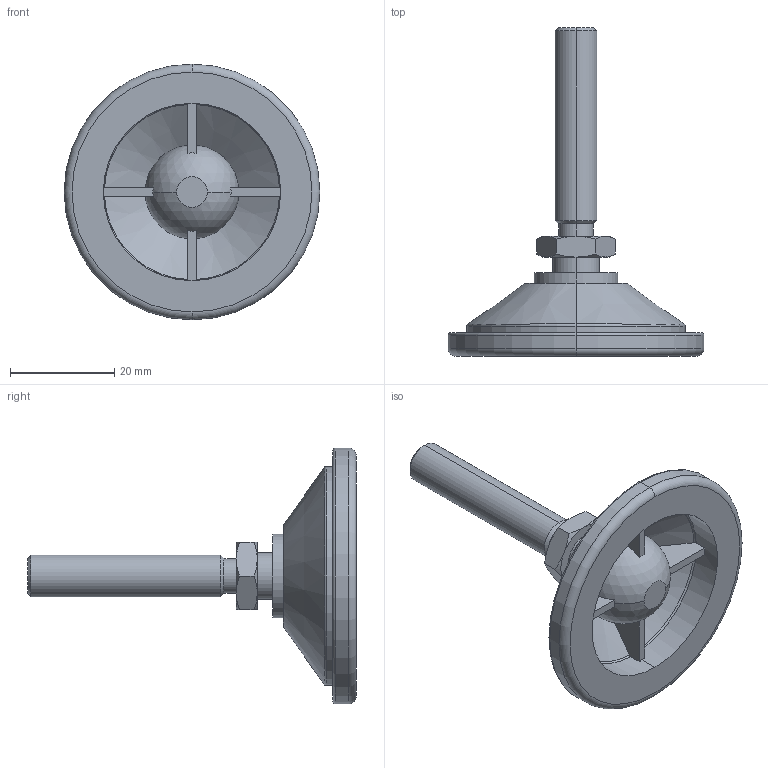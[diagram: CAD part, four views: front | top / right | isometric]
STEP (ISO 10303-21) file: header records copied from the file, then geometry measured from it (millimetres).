
FILE_DESCRIPTION (( 'STEP AP203' ), '1' );
FILE_NAME ('3472.W083.step', '2009-10-21T16:58:05', ( 'Wixroyd' ), ( 'Wixroyd' ), 'SwSTEP 2.0', 'SolidWorks 2009', '' );
FILE_SCHEMA (( 'CONFIG_CONTROL_DESIGN' ));
Length unit declared in the file: millimetre
Products named in the file (3): Part1_3472W083; Part2_3472W083; 3472.W083
Assembly tree (2 placements, depth 2):
  3472.W083
    Part2_3472W083
    Part1_3472W083
Bounding box: 49 x 63 x 49 mm (x, y, z)
Volume: 13458.3 mm3; surface area: 8994.3 mm2
Topology: 2 solids, 2 shells, 95 faces, 231 edges, 145 vertices
Faces by surface type: plane 39, cone 22, cylinder 16, torus 12, sphere 6
Entity records: 3189 total; most frequent: CARTESIAN_POINT 664, DIRECTION 514, ORIENTED_EDGE 446, AXIS2_PLACEMENT_3D 231, EDGE_CURVE 223, VERTEX_POINT 141, CIRCLE 131, EDGE_LOOP 104
